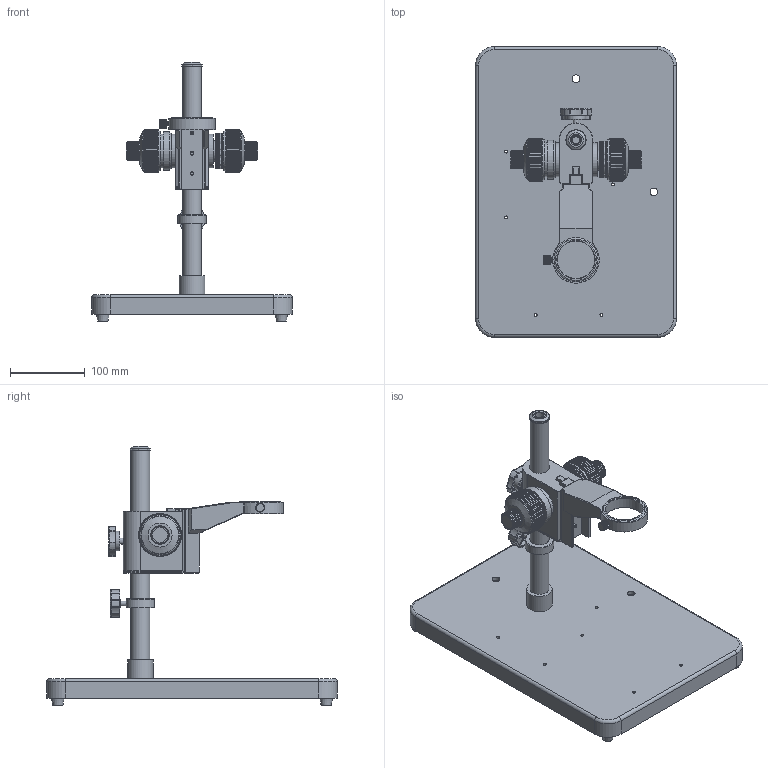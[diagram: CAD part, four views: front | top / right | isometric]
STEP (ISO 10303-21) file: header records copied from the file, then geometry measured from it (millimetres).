
FILE_DESCRIPTION(('STEP AP214'),'1');
FILE_NAME('GRS-1.stp','2024-09-20T05:25:37',(' '),(' '),'Spatial InterOp 3D',' ',' ');
FILE_SCHEMA(('AUTOMOTIVE_DESIGN { 1 0 10303 214 1 1 1 1 }'));
Length unit declared in the file: metre
Products named in the file (5): GRS-1; Component1; Component2; Component3; Component4
Assembly tree (4 placements, depth 2):
  GRS-1
    Component1
    Component2
    Component3
    Component4
Bounding box: 268 x 388 x 345.9 mm (x, y, z)
Volume: 1155823.1 mm3; surface area: 455861 mm2
Topology: 6 solids, 14 shells, 2665 faces, 7020 edges, 4490 vertices
Faces by surface type: plane 1375, cylinder 835, torus 311, bspline 91, cone 52, sphere 1
Full cylindrical faces by diameter (mm): 2 x4, 2.4 x4, 2.5 x5, 4 x10, 4.6 x1, 5 x4, 6 x3, 6.5 x4, 7.3 x4, 8 x2, 9.8 x1, 10 x3, 10.5 x3, 11.7 x3, 12.8 x1, 15 x1, 15.2 x1, 17.4 x1, 18 x1, 20 x2, 21 x3, 22 x1, 22.5 x2, 24.5 x2, 25 x2, 25.2 x1, 26 x1, 27.2 x1, 28 x1, 34 x1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
Entity records: 174809 total; most frequent: CARTESIAN_POINT 54634, DIRECTION 13588, ORIENTED_EDGE 13540, STYLED_ITEM 9440, PRESENTATION_STYLE_ASSIGNMENT 9440, COLOUR_RGB 9440, EDGE_CURVE 6770, CURVE_STYLE 6769
